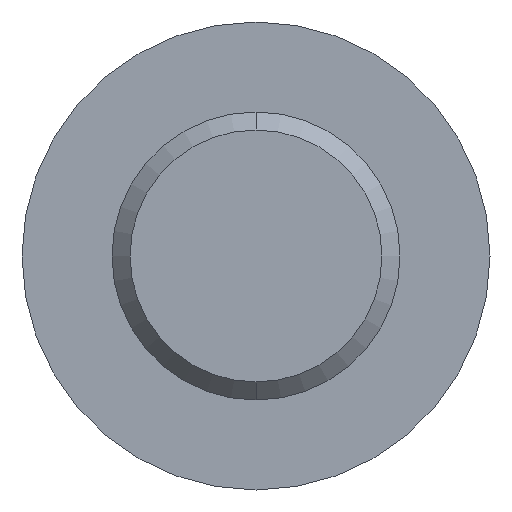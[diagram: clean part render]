
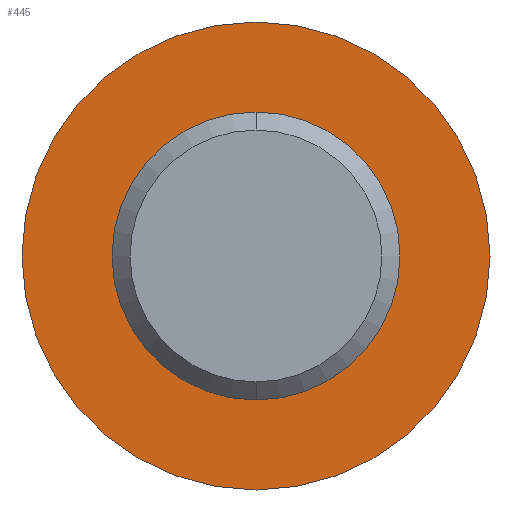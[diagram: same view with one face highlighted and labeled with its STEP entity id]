
A CAD part, front view. The second image highlights one B-rep face of the part: STEP entity #445.
In plain terms, the highlighted planar face has unit normal (0, -1, 0).
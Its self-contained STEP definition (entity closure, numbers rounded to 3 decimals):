
#20 = CIRCLE ( 'NONE', #467, 6.5 ) ;
#27 = CIRCLE ( 'NONE', #462, 6.5 ) ;
#30 = CIRCLE ( 'NONE', #461, 4. ) ;
#42 = CIRCLE ( 'NONE', #473, 4. ) ;
#124 = CARTESIAN_POINT ( 'NONE',  ( 6.5, 0., 0. ) ) ;
#128 = DIRECTION ( 'NONE',  ( 0., 0., -1. ) ) ;
#131 = PLANE ( 'NONE',  #183 ) ;
#134 = DIRECTION ( 'NONE',  ( 0., -1., 0. ) ) ;
#183 = AXIS2_PLACEMENT_3D ( 'NONE', #124, #134, #128 ) ;
#206 = CARTESIAN_POINT ( 'NONE',  ( 0., 0., 0. ) ) ;
#208 = DIRECTION ( 'NONE',  ( 0., -1., 0. ) ) ;
#209 = DIRECTION ( 'NONE',  ( 0., 0., -1. ) ) ;
#213 = DIRECTION ( 'NONE',  ( 0., -1., 0. ) ) ;
#217 = DIRECTION ( 'NONE',  ( 0., 0., -1. ) ) ;
#219 = CARTESIAN_POINT ( 'NONE',  ( 0., 0., 0. ) ) ;
#229 = CARTESIAN_POINT ( 'NONE',  ( 0., 0., -6.5 ) ) ;
#232 = CARTESIAN_POINT ( 'NONE',  ( 0., 0., 0. ) ) ;
#235 = DIRECTION ( 'NONE',  ( 0., -1., 0. ) ) ;
#237 = DIRECTION ( 'NONE',  ( 0., 0., -1. ) ) ;
#242 = CARTESIAN_POINT ( 'NONE',  ( 0., 0., 0. ) ) ;
#247 = DIRECTION ( 'NONE',  ( 0., 0., -1. ) ) ;
#248 = DIRECTION ( 'NONE',  ( 0., -1., 0. ) ) ;
#256 = CARTESIAN_POINT ( 'NONE',  ( 0., 0., -4. ) ) ;
#257 = CARTESIAN_POINT ( 'NONE',  ( 0., 0., 6.5 ) ) ;
#259 = CARTESIAN_POINT ( 'NONE',  ( 0., 0., 4. ) ) ;
#339 = VERTEX_POINT ( 'NONE', #256 ) ;
#340 = VERTEX_POINT ( 'NONE', #229 ) ;
#341 = VERTEX_POINT ( 'NONE', #259 ) ;
#350 = EDGE_LOOP ( 'NONE', ( #377, #374 ) ) ;
#351 = VERTEX_POINT ( 'NONE', #257 ) ;
#368 = EDGE_LOOP ( 'NONE', ( #369, #370 ) ) ;
#369 = ORIENTED_EDGE ( 'NONE', *, *, #422, .F. ) ;
#370 = ORIENTED_EDGE ( 'NONE', *, *, #406, .F. ) ;
#374 = ORIENTED_EDGE ( 'NONE', *, *, #407, .T. ) ;
#377 = ORIENTED_EDGE ( 'NONE', *, *, #411, .T. ) ;
#379 = FACE_BOUND ( 'NONE', #368, .T. ) ;
#387 = FACE_OUTER_BOUND ( 'NONE', #350, .T. ) ;
#406 = EDGE_CURVE ( 'NONE', #341, #339, #30, .T. ) ;
#407 = EDGE_CURVE ( 'NONE', #351, #340, #27, .T. ) ;
#411 = EDGE_CURVE ( 'NONE', #340, #351, #20, .T. ) ;
#422 = EDGE_CURVE ( 'NONE', #339, #341, #42, .T. ) ;
#445 = ADVANCED_FACE ( 'NONE', ( #387, #379 ), #131, .T. ) ;
#461 = AXIS2_PLACEMENT_3D ( 'NONE', #232, #248, #217 ) ;
#462 = AXIS2_PLACEMENT_3D ( 'NONE', #219, #213, #247 ) ;
#467 = AXIS2_PLACEMENT_3D ( 'NONE', #242, #235, #237 ) ;
#473 = AXIS2_PLACEMENT_3D ( 'NONE', #206, #208, #209 ) ;
